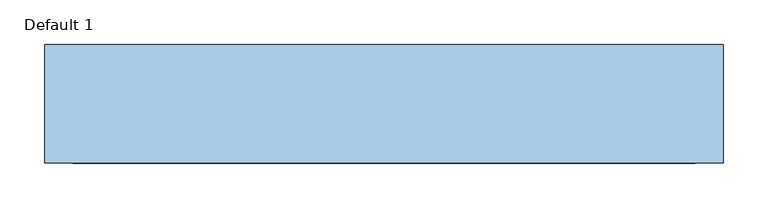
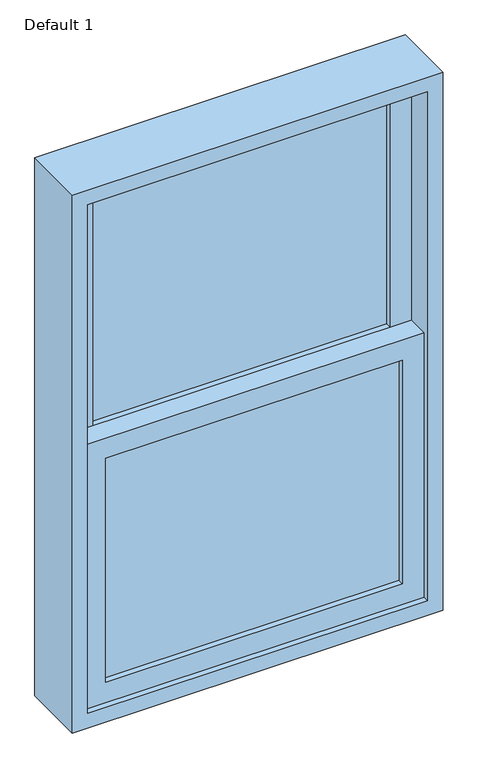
"""IFC4 building model written with IfcOpenShell, lengths in millimetres: window geometry, Planitar-Double-Hung-Single : Default 1."""

from ifc_helpers import new_model, si_unit, frame, origin, place, context, project, spatial, polyline, outline, extrude, source, transform, mapped, element, save


def default_1_5a369d27(model_context):
    return source(origin(), model_context, "Body", "SweptSolid", [
        extrude(outline(polyline([(304.8, -12.7), (304.8, -19.05), (-304.8, -19.05), (-304.8, -12.7), (304.8, -12.7)])), frame((0.0, 0.0, 990.6), z_axis=(0.0, 0.0, 1.0), x_axis=(1.0, 0.0, 0.0)), (0.0, 0.0, 1.0), 485.775),
        extrude(outline(polyline([(-304.8, -25.4), (304.8, -25.4), (304.8, -31.75), (-304.8, -31.75), (-304.8, -25.4)])), frame((0.0, 0.0, 990.6), z_axis=(0.0, 0.0, 1.0), x_axis=(1.0, 0.0, 0.0)), (0.0, 0.0, 1.0), 485.775),
        extrude(outline(polyline([(304.8, 31.75), (304.8, 25.4), (-304.8, 25.4), (-304.8, 31.75), (304.8, 31.75)])), frame((0.0, 0.0, 1520.825), z_axis=(0.0, 0.0, 1.0), x_axis=(1.0, 0.0, 0.0)), (0.0, 0.0, 1.0), 485.775),
        extrude(outline(polyline([(-304.8, 19.05), (304.8, 19.05), (304.8, 12.7), (-304.8, 12.7), (-304.8, 19.05)])), frame((0.0, 0.0, 1520.825), z_axis=(0.0, 0.0, 1.0), x_axis=(1.0, 0.0, 0.0)), (0.0, 0.0, 1.0), 485.775),
        extrude(outline(polyline([(1520.825, -349.25), (946.15, -349.25), (946.15, 349.25), (1520.825, 349.25), (1520.825, -349.25)]), holes=[polyline([(1476.375, 304.8), (990.6, 304.8), (990.6, -304.8), (1476.375, -304.8), (1476.375, 304.8)])]), frame((0.0, -44.45, 0.0), z_axis=(0.0, 1.0, 0.0), x_axis=(0.0, 0.0, 1.0)), (0.0, 0.0, 1.0), 44.45),
        extrude(outline(polyline([(2051.05, -349.25), (1476.375, -349.25), (1476.375, 349.25), (2051.05, 349.25), (2051.05, -349.25)]), holes=[polyline([(2006.6, 304.8), (1520.825, 304.8), (1520.825, -304.8), (2006.6, -304.8), (2006.6, 304.8)])]), frame((0.0, 0.0, 0.0), z_axis=(0.0, 1.0, 0.0), x_axis=(0.0, 0.0, 1.0)), (0.0, 0.0, 1.0), 44.45),
        extrude(outline(polyline([(2082.8, -381.0), (914.4, -381.0), (914.4, 381.0), (2082.8, 381.0), (2082.8, -381.0)]), holes=[polyline([(2051.05, 349.25), (946.15, 349.25), (946.15, -349.25), (2051.05, -349.25), (2051.05, 349.25)])]), frame((0.0, -57.15, 0.0), z_axis=(0.0, 1.0, 0.0), x_axis=(0.0, 0.0, 1.0)), (0.0, 0.0, 1.0), 133.35),
    ])


if __name__ == "__main__":
    model = new_model("IFC4")
    model_context = context("Model", 3, world=origin())
    ifc_project = project(units=[si_unit("LENGTHUNIT", "METRE", prefix="MILLI")], contexts=[model_context])
    site = spatial("IfcSite", under=ifc_project)
    building = spatial("IfcBuilding", under=site)
    placement = place(None, origin())
    default_1_shape = default_1_5a369d27(model_context)
    element("IfcWindow", 1, ObjectType="Planitar-Double-Hung-Single : Default 1", at=placement, inside=building, context=model_context, shape_type="MappedRepresentation", body=[
        mapped(default_1_shape, transform((0.0, 0.0, 0.0), x_axis=(1.0, 0.0, 0.0), y_axis=(0.0, 1.0, 0.0), z_axis=(0.0, 0.0, 1.0))),
    ])
    save(model, "model.ifc")
